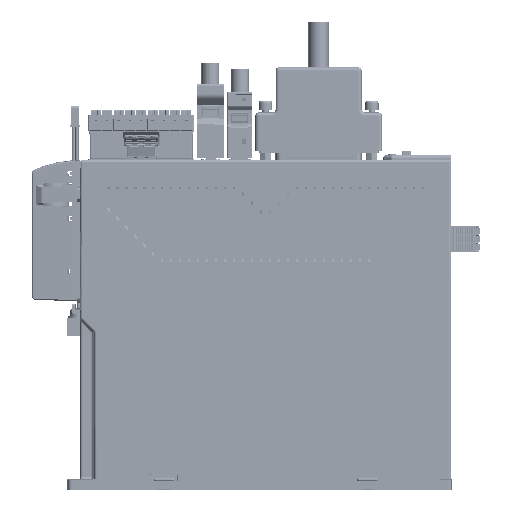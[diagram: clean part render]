
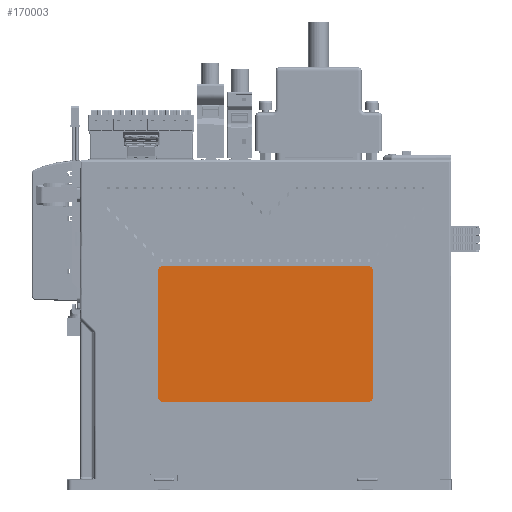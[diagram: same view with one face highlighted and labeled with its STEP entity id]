
A CAD part, left-side view. The second image highlights one B-rep face of the part: STEP entity #170003.
In plain terms, the highlighted planar face has unit normal (-1, 0, 0).
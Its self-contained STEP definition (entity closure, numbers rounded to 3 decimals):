
#52480=DIRECTION('',(0.,0.,1.));
#52481=VECTOR('',#52480,56.);
#52482=CARTESIAN_POINT('',(-19.2,-47.5,41.));
#52483=LINE('',#52482,#52481);
#52492=CARTESIAN_POINT('',(-19.2,45.5,97.));
#52493=DIRECTION('',(1.,0.,0.));
#52494=DIRECTION('',(0.,1.,0.));
#52495=AXIS2_PLACEMENT_3D('',#52492,#52493,#52494);
#52497=DIRECTION('',(0.,-1.,0.));
#52498=VECTOR('',#52497,91.);
#52499=CARTESIAN_POINT('',(-19.2,45.5,99.));
#52500=LINE('',#52499,#52498);
#52501=CARTESIAN_POINT('',(-19.2,-45.5,97.));
#52502=DIRECTION('',(1.,0.,0.));
#52503=DIRECTION('',(0.,0.,1.));
#52504=AXIS2_PLACEMENT_3D('',#52501,#52502,#52503);
#52506=CARTESIAN_POINT('',(-19.2,-45.5,41.));
#52507=DIRECTION('',(1.,0.,0.));
#52508=DIRECTION('',(0.,-1.,0.));
#52509=AXIS2_PLACEMENT_3D('',#52506,#52507,#52508);
#52511=DIRECTION('',(0.,1.,0.));
#52512=VECTOR('',#52511,91.);
#52513=CARTESIAN_POINT('',(-19.2,-45.5,39.));
#52514=LINE('',#52513,#52512);
#52515=CARTESIAN_POINT('',(-19.2,45.5,41.));
#52516=DIRECTION('',(1.,0.,0.));
#52517=DIRECTION('',(0.,0.,-1.));
#52518=AXIS2_PLACEMENT_3D('',#52515,#52516,#52517);
#52520=DIRECTION('',(0.,0.,1.));
#52521=VECTOR('',#52520,56.);
#52522=CARTESIAN_POINT('',(-19.2,47.5,41.));
#52523=LINE('',#52522,#52521);
#69292=CARTESIAN_POINT('',(-19.2,-47.5,97.));
#69293=VERTEX_POINT('',#69292);
#69294=CARTESIAN_POINT('',(-19.2,-47.5,41.));
#69295=VERTEX_POINT('',#69294);
#69296=CARTESIAN_POINT('',(-19.2,-45.5,99.));
#69297=VERTEX_POINT('',#69296);
#69298=CARTESIAN_POINT('',(-19.2,47.5,97.));
#69299=CARTESIAN_POINT('',(-19.2,45.5,99.));
#69300=VERTEX_POINT('',#69298);
#69301=VERTEX_POINT('',#69299);
#69302=CARTESIAN_POINT('',(-19.2,-45.5,39.));
#69303=VERTEX_POINT('',#69302);
#69304=CARTESIAN_POINT('',(-19.2,45.5,39.));
#69305=VERTEX_POINT('',#69304);
#69306=CARTESIAN_POINT('',(-19.2,47.5,41.));
#69307=VERTEX_POINT('',#69306);
#169982=CARTESIAN_POINT('',(-19.2,0.,69.));
#169983=DIRECTION('',(1.,0.,0.));
#169984=DIRECTION('',(0.,-1.,0.));
#169985=AXIS2_PLACEMENT_3D('',#169982,#169983,#169984);
#169986=PLANE('',#169985);
#169988=ORIENTED_EDGE('',*,*,#169987,.T.);
#169990=ORIENTED_EDGE('',*,*,#169989,.T.);
#169991=ORIENTED_EDGE('',*,*,#169966,.T.);
#169992=ORIENTED_EDGE('',*,*,#169949,.F.);
#169994=ORIENTED_EDGE('',*,*,#169993,.T.);
#169996=ORIENTED_EDGE('',*,*,#169995,.T.);
#169998=ORIENTED_EDGE('',*,*,#169997,.T.);
#170000=ORIENTED_EDGE('',*,*,#169999,.T.);
#170001=EDGE_LOOP('',(#169988,#169990,#169991,#169992,#169994,#169996,#169998,
#170000));
#170002=FACE_OUTER_BOUND('',#170001,.F.);
#52496=CIRCLE('',#52495,2.);
#52505=CIRCLE('',#52504,2.);
#52510=CIRCLE('',#52509,2.);
#52519=CIRCLE('',#52518,2.);
#169949=EDGE_CURVE('',#69295,#69293,#52483,.T.);
#169966=EDGE_CURVE('',#69297,#69293,#52505,.T.);
#169987=EDGE_CURVE('',#69300,#69301,#52496,.T.);
#169989=EDGE_CURVE('',#69301,#69297,#52500,.T.);
#169993=EDGE_CURVE('',#69295,#69303,#52510,.T.);
#169995=EDGE_CURVE('',#69303,#69305,#52514,.T.);
#169997=EDGE_CURVE('',#69305,#69307,#52519,.T.);
#169999=EDGE_CURVE('',#69307,#69300,#52523,.T.);
#170003=ADVANCED_FACE('',(#170002),#169986,.F.);
